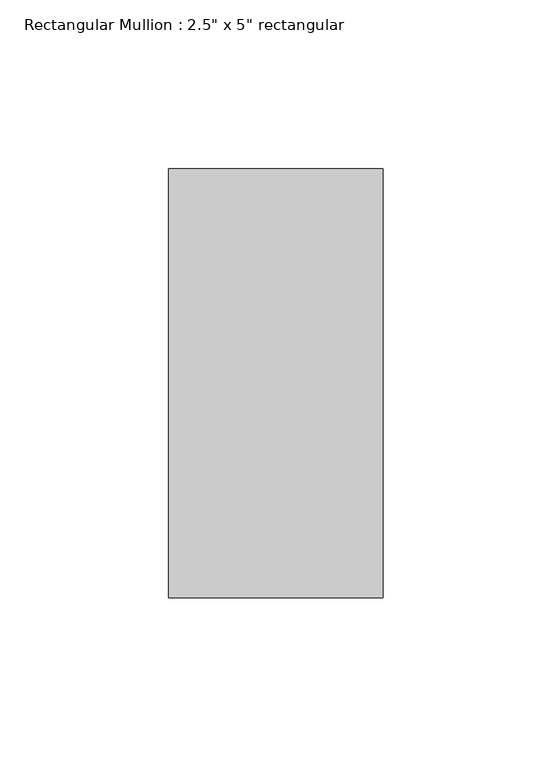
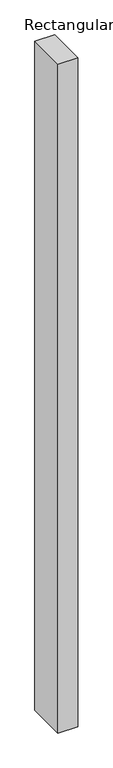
"""IFC4 building model written with IfcOpenShell, lengths in millimetres: member geometry."""

from ifc_helpers import new_model, si_unit, frame, origin, place, context, project, spatial, polyline, outline, extrude, source, transform, mapped, element, save


def member_cd2e279d(model_context):
    return source(origin(), model_context, "Body", "SweptSolid", [
        extrude(outline(polyline([(0.0, 63.5), (0.0, -63.5), (-63.5, -63.5), (-63.5, 63.5), (0.0, 63.5)])), frame((0.0, 0.0, -2260.6), z_axis=(0.0, 0.0, 1.0), x_axis=(1.0, 0.0, 0.0)), (0.0, 0.0, 1.0), 2260.6),
    ])


if __name__ == "__main__":
    model = new_model("IFC4")
    model_context = context("Model", 3, world=origin())
    ifc_project = project(units=[si_unit("LENGTHUNIT", "METRE", prefix="MILLI")], contexts=[model_context])
    site = spatial("IfcSite", under=ifc_project)
    building = spatial("IfcBuilding", under=site)
    placement = place(None, origin())
    member_shape = member_cd2e279d(model_context)
    element("IfcMember", 1, ObjectType="Rectangular Mullion : 2.5\" x 5\" rectangular", at=placement, inside=building, context=model_context, shape_type="MappedRepresentation", body=[
        mapped(member_shape, transform((0.0, 0.0, 0.0), x_axis=(1.0, 0.0, 0.0), y_axis=(0.0, 1.0, 0.0), z_axis=(0.0, 0.0, 1.0))),
    ])
    save(model, "model.ifc")
